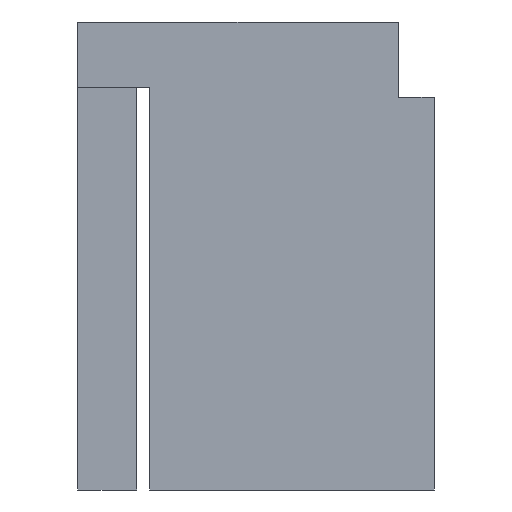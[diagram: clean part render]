
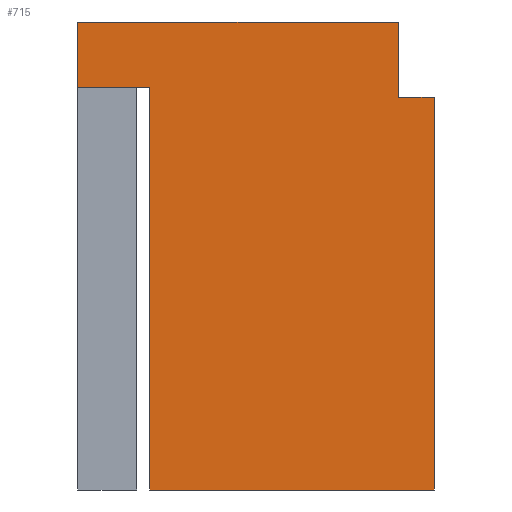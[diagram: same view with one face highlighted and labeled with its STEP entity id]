
A CAD part, front view. The second image highlights one B-rep face of the part: STEP entity #715.
In plain terms, the highlighted planar face has unit normal (0, -1, 0).
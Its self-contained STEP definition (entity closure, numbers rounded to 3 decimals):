
#55=FACE_OUTER_BOUND('',#91,.T.);
#91=EDGE_LOOP('',(#627,#628,#629,#630,#631,#632,#633,#634));
#118=LINE('',#998,#212);
#129=LINE('',#1033,#223);
#139=LINE('',#1054,#233);
#147=LINE('',#1067,#241);
#158=LINE('',#1089,#252);
#169=LINE('',#1109,#263);
#181=LINE('',#1134,#275);
#182=LINE('',#1136,#276);
#212=VECTOR('',#806,10.);
#223=VECTOR('',#843,10.);
#233=VECTOR('',#855,10.);
#241=VECTOR('',#865,10.);
#252=VECTOR('',#882,10.);
#263=VECTOR('',#901,10.);
#275=VECTOR('',#929,10.);
#276=VECTOR('',#932,10.);
#304=VERTEX_POINT('',#995);
#305=VERTEX_POINT('',#997);
#316=VERTEX_POINT('',#1032);
#325=VERTEX_POINT('',#1051);
#326=VERTEX_POINT('',#1053);
#330=VERTEX_POINT('',#1065);
#338=VERTEX_POINT('',#1087);
#343=VERTEX_POINT('',#1107);
#374=EDGE_CURVE('',#305,#304,#118,.T.);
#393=EDGE_CURVE('',#305,#316,#129,.T.);
#403=EDGE_CURVE('',#326,#325,#139,.T.);
#411=EDGE_CURVE('',#325,#330,#147,.T.);
#422=EDGE_CURVE('',#338,#330,#158,.T.);
#433=EDGE_CURVE('',#343,#304,#169,.T.);
#445=EDGE_CURVE('',#326,#343,#181,.T.);
#446=EDGE_CURVE('',#338,#316,#182,.T.);
#627=ORIENTED_EDGE('',*,*,#411,.T.);
#628=ORIENTED_EDGE('',*,*,#422,.F.);
#629=ORIENTED_EDGE('',*,*,#446,.T.);
#630=ORIENTED_EDGE('',*,*,#393,.F.);
#631=ORIENTED_EDGE('',*,*,#374,.T.);
#632=ORIENTED_EDGE('',*,*,#433,.F.);
#633=ORIENTED_EDGE('',*,*,#445,.F.);
#634=ORIENTED_EDGE('',*,*,#403,.T.);
#683=PLANE('',#769);
#715=ADVANCED_FACE('',(#55),#683,.F.);
#769=AXIS2_PLACEMENT_3D('',#1135,#930,#931);
#806=DIRECTION('',(0.,0.,-1.));
#843=DIRECTION('',(-1.,0.,0.));
#855=DIRECTION('',(-1.,0.,0.));
#865=DIRECTION('',(0.,0.,1.));
#882=DIRECTION('',(1.,0.,0.));
#901=DIRECTION('',(-1.,0.,0.));
#929=DIRECTION('',(0.,0.,-1.));
#930=DIRECTION('center_axis',(0.,1.,0.));
#931=DIRECTION('ref_axis',(0.,0.,1.));
#932=DIRECTION('',(0.,0.,-1.));
#995=CARTESIAN_POINT('',(33.7,18.5,-12.2));
#997=CARTESIAN_POINT('',(33.7,18.5,-6.05));
#998=CARTESIAN_POINT('',(33.7,18.5,-9.05));
#1032=CARTESIAN_POINT('',(32.6,18.5,-6.05));
#1033=CARTESIAN_POINT('',(35.325,18.5,-6.05));
#1051=CARTESIAN_POINT('',(37.5,18.5,-6.2));
#1053=CARTESIAN_POINT('',(38.05,18.5,-6.2));
#1054=CARTESIAN_POINT('',(36.563,18.5,-6.2));
#1065=CARTESIAN_POINT('',(37.5,18.5,-5.05));
#1067=CARTESIAN_POINT('',(37.5,18.5,-5.55));
#1087=CARTESIAN_POINT('',(32.6,18.5,-5.05));
#1089=CARTESIAN_POINT('',(35.325,18.5,-5.05));
#1107=CARTESIAN_POINT('',(38.05,18.5,-12.2));
#1109=CARTESIAN_POINT('',(35.875,18.5,-12.2));
#1134=CARTESIAN_POINT('',(38.05,18.5,-5.55));
#1135=CARTESIAN_POINT('Origin',(35.325,18.5,-5.55));
#1136=CARTESIAN_POINT('',(32.6,18.5,-5.55));
